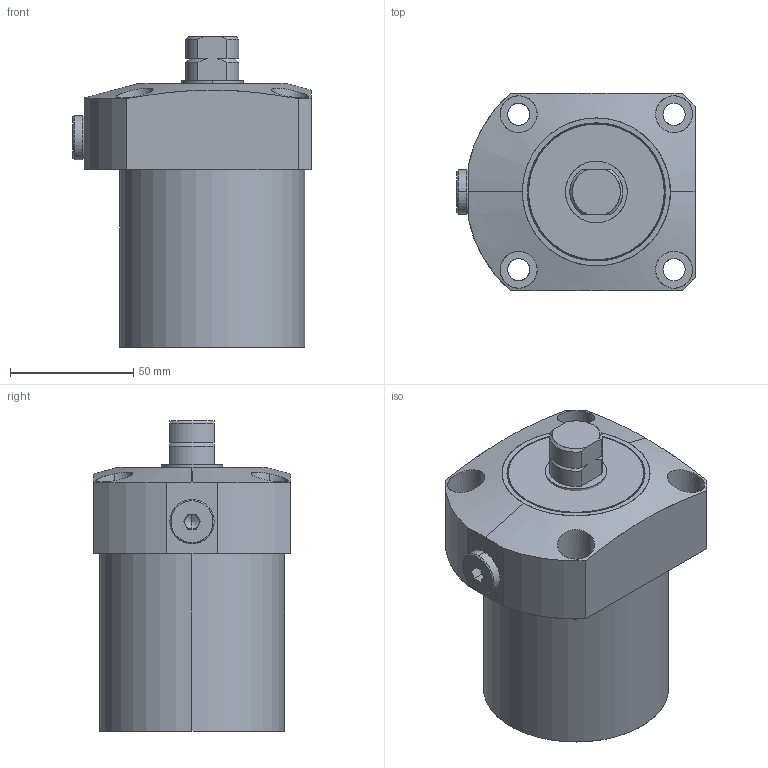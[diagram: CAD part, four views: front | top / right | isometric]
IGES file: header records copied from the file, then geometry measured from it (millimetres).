
Start section: SolidWorks IGES file using analytic representation for surfaces
Global section: file name: D:\karuppas\Clasp\3D model\Work support\Work support FW10-0755\FW10-0755 Work support.IGS; native system: SolidWorks 2017; preprocessor: SolidWorks 2017; author: pc; date: 220709.224339; units: millimetre
Bounding box: 96.5 x 80 x 126 mm (x, y, z)
Surface area: 53934.4 mm2 (no closed solid volume)
Topology: 0 solids, 0 shells, 274 faces, 4206 edges, 4202 vertices
Faces by surface type: bspline 212, revolution 62
